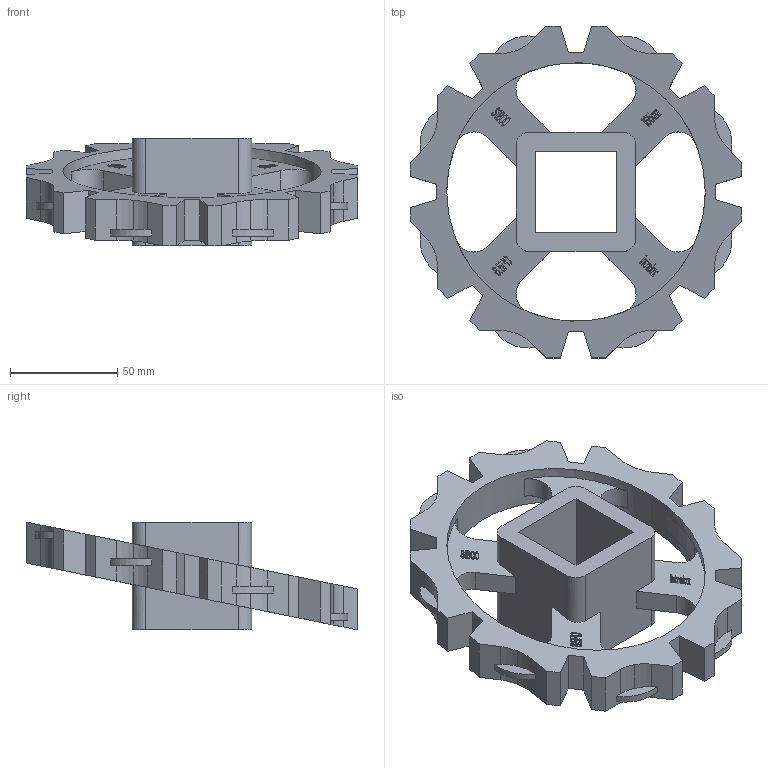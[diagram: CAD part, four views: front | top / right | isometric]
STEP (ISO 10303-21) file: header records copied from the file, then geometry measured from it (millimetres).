
FILE_DESCRIPTION((''),'2;1');
FILE_NAME('S1800_ANGLEEZCLEAN_65X15_40_SQ','2008-12-12T',('jmumphre'),(''),'PRO/ENGINEER BY PARAMETRIC TECHNOLOGY CORPORATION, 2008150','PRO/ENGINEER BY PARAMETRIC TECHNOLOGY CORPORATION, 2008150','');
FILE_SCHEMA(('CONFIG_CONTROL_DESIGN'));
Length unit declared in the file: inch
Products named in the file (1): S1800_ANGLEEZCLEAN_65X15_40_SQ
Bounding box: 154.92 x 154.92 x 50.29 mm (x, y, z)
Volume: 216367.1 mm3; surface area: 59292.6 mm2
Topology: 1 solids, 1 shells, 916 faces, 2652 edges, 1768 vertices
Faces by surface type: plane 858, cylinder 58
Entity records: 30078 total; most frequent: CARTESIAN_POINT 5946, ORIENTED_EDGE 5304, DIRECTION 4468, EDGE_CURVE 2652, VECTOR 2524, LINE 2524, VERTEX_POINT 1768, AXIS2_PLACEMENT_3D 972
